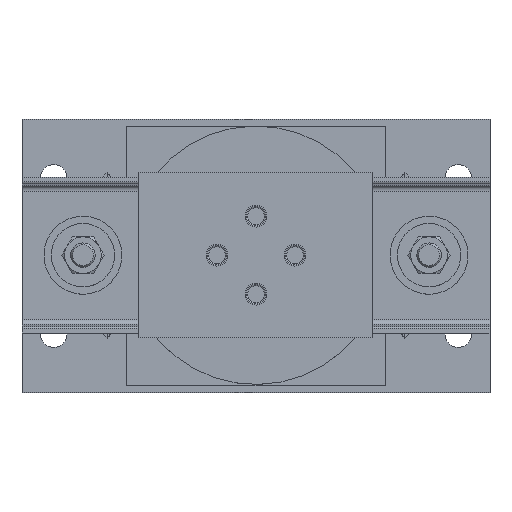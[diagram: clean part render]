
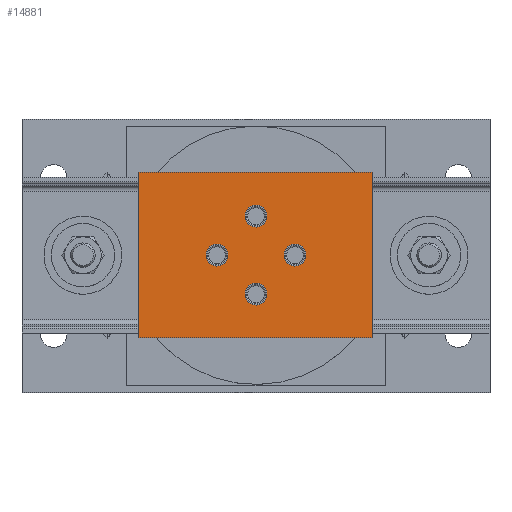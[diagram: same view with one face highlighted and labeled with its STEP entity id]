
A CAD part, top view. The second image highlights one B-rep face of the part: STEP entity #14881.
In plain terms, the highlighted planar face has unit normal (0, 0, 1).
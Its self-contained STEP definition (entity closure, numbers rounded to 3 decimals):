
#51=FACE_BOUND('',#3255,.T.);
#52=FACE_BOUND('',#3256,.T.);
#53=FACE_BOUND('',#3257,.T.);
#54=FACE_BOUND('',#3258,.T.);
#211=PLANE('',#16029);
#2251=FACE_OUTER_BOUND('',#3254,.T.);
#3254=EDGE_LOOP('',(#10553,#10554,#10555,#10556));
#3255=EDGE_LOOP('',(#10557,#10558));
#3256=EDGE_LOOP('',(#10559,#10560));
#3257=EDGE_LOOP('',(#10561,#10562));
#3258=EDGE_LOOP('',(#10563,#10564));
#4342=CIRCLE('',#16014,0.563);
#4343=CIRCLE('',#16015,0.563);
#4344=CIRCLE('',#16017,0.563);
#4345=CIRCLE('',#16018,0.563);
#4346=CIRCLE('',#16020,0.563);
#4347=CIRCLE('',#16021,0.563);
#4348=CIRCLE('',#16023,0.563);
#4349=CIRCLE('',#16024,0.563);
#4750=LINE('',#26170,#5371);
#4755=LINE('',#26177,#5376);
#4757=LINE('',#26181,#5378);
#4761=LINE('',#26186,#5382);
#5371=VECTOR('',#17564,0.394);
#5376=VECTOR('',#17571,0.394);
#5378=VECTOR('',#17575,0.394);
#5382=VECTOR('',#17581,0.394);
#6192=VERTEX_POINT('',#26144);
#6193=VERTEX_POINT('',#26145);
#6194=VERTEX_POINT('',#26150);
#6195=VERTEX_POINT('',#26151);
#6196=VERTEX_POINT('',#26156);
#6197=VERTEX_POINT('',#26157);
#6198=VERTEX_POINT('',#26162);
#6199=VERTEX_POINT('',#26163);
#6200=VERTEX_POINT('',#26168);
#6201=VERTEX_POINT('',#26169);
#6202=VERTEX_POINT('',#26176);
#6203=VERTEX_POINT('',#26180);
#7702=EDGE_CURVE('',#6192,#6193,#4342,.T.);
#7703=EDGE_CURVE('',#6193,#6192,#4343,.T.);
#7705=EDGE_CURVE('',#6194,#6195,#4344,.T.);
#7706=EDGE_CURVE('',#6195,#6194,#4345,.T.);
#7708=EDGE_CURVE('',#6196,#6197,#4346,.T.);
#7709=EDGE_CURVE('',#6197,#6196,#4347,.T.);
#7711=EDGE_CURVE('',#6198,#6199,#4348,.T.);
#7712=EDGE_CURVE('',#6199,#6198,#4349,.T.);
#7714=EDGE_CURVE('',#6200,#6201,#4750,.T.);
#7719=EDGE_CURVE('',#6201,#6202,#4755,.T.);
#7721=EDGE_CURVE('',#6202,#6203,#4757,.T.);
#7725=EDGE_CURVE('',#6203,#6200,#4761,.T.);
#10553=ORIENTED_EDGE('',*,*,#7714,.F.);
#10554=ORIENTED_EDGE('',*,*,#7725,.F.);
#10555=ORIENTED_EDGE('',*,*,#7721,.F.);
#10556=ORIENTED_EDGE('',*,*,#7719,.F.);
#10557=ORIENTED_EDGE('',*,*,#7702,.T.);
#10558=ORIENTED_EDGE('',*,*,#7703,.T.);
#10559=ORIENTED_EDGE('',*,*,#7705,.T.);
#10560=ORIENTED_EDGE('',*,*,#7706,.T.);
#10561=ORIENTED_EDGE('',*,*,#7708,.T.);
#10562=ORIENTED_EDGE('',*,*,#7709,.T.);
#10563=ORIENTED_EDGE('',*,*,#7711,.T.);
#10564=ORIENTED_EDGE('',*,*,#7712,.T.);
#14881=ADVANCED_FACE('',(#2251,#51,#52,#53,#54),#211,.T.);
#16014=AXIS2_PLACEMENT_3D('',#26146,#17536,#17537);
#16015=AXIS2_PLACEMENT_3D('',#26147,#17538,#17539);
#16017=AXIS2_PLACEMENT_3D('',#26152,#17543,#17544);
#16018=AXIS2_PLACEMENT_3D('',#26153,#17545,#17546);
#16020=AXIS2_PLACEMENT_3D('',#26158,#17550,#17551);
#16021=AXIS2_PLACEMENT_3D('',#26159,#17552,#17553);
#16023=AXIS2_PLACEMENT_3D('',#26164,#17557,#17558);
#16024=AXIS2_PLACEMENT_3D('',#26165,#17559,#17560);
#16029=AXIS2_PLACEMENT_3D('',#26187,#17582,#17583);
#17536=DIRECTION('center_axis',(0.,0.,
-1.));
#17537=DIRECTION('ref_axis',(-1.,0.,0.));
#17538=DIRECTION('center_axis',(0.,0.,
-1.));
#17539=DIRECTION('ref_axis',(-1.,0.,0.));
#17543=DIRECTION('center_axis',(0.,0.,
-1.));
#17544=DIRECTION('ref_axis',(-1.,0.,0.));
#17545=DIRECTION('center_axis',(0.,0.,
-1.));
#17546=DIRECTION('ref_axis',(-1.,0.,0.));
#17550=DIRECTION('center_axis',(0.,0.,
-1.));
#17551=DIRECTION('ref_axis',(-1.,0.,0.));
#17552=DIRECTION('center_axis',(0.,0.,
-1.));
#17553=DIRECTION('ref_axis',(-1.,0.,0.));
#17557=DIRECTION('center_axis',(0.,0.,
-1.));
#17558=DIRECTION('ref_axis',(-1.,0.,0.));
#17559=DIRECTION('center_axis',(0.,0.,
-1.));
#17560=DIRECTION('ref_axis',(-1.,0.,0.));
#17564=DIRECTION('',(0.,1.,0.));
#17571=DIRECTION('',(1.,0.,0.));
#17575=DIRECTION('',(0.,-1.,0.));
#17581=DIRECTION('',(-1.,0.,0.));
#17582=DIRECTION('center_axis',(0.,0.,
1.));
#17583=DIRECTION('ref_axis',(-1.,0.,0.));
#26144=CARTESIAN_POINT('',(-0.563,2.,27.));
#26145=CARTESIAN_POINT('',(0.562,2.,27.));
#26146=CARTESIAN_POINT('Origin',(0.,2.,27.));
#26147=CARTESIAN_POINT('Origin',(0.,2.,27.));
#26150=CARTESIAN_POINT('',(-2.563,0.,27.));
#26151=CARTESIAN_POINT('',(-1.438,0.,27.));
#26152=CARTESIAN_POINT('Origin',(-2.,0.,27.));
#26153=CARTESIAN_POINT('Origin',(-2.,0.,27.));
#26156=CARTESIAN_POINT('',(-0.563,-2.,27.));
#26157=CARTESIAN_POINT('',(0.563,-2.,27.));
#26158=CARTESIAN_POINT('Origin',(0.,-2.,27.));
#26159=CARTESIAN_POINT('Origin',(0.,-2.,27.));
#26162=CARTESIAN_POINT('',(1.438,0.,27.));
#26163=CARTESIAN_POINT('',(2.563,0.,27.));
#26164=CARTESIAN_POINT('Origin',(2.,0.,27.));
#26165=CARTESIAN_POINT('Origin',(2.,0.,27.));
#26168=CARTESIAN_POINT('',(-6.,-4.25,27.));
#26169=CARTESIAN_POINT('',(-6.,4.25,27.));
#26170=CARTESIAN_POINT('',(-6.,-4.25,27.));
#26176=CARTESIAN_POINT('',(6.,4.25,27.));
#26177=CARTESIAN_POINT('',(-6.,4.25,27.));
#26180=CARTESIAN_POINT('',(6.,-4.25,27.));
#26181=CARTESIAN_POINT('',(6.,4.25,27.));
#26186=CARTESIAN_POINT('',(6.,-4.25,27.));
#26187=CARTESIAN_POINT('Origin',(0.,0.,
27.));
